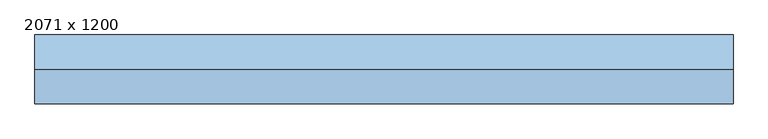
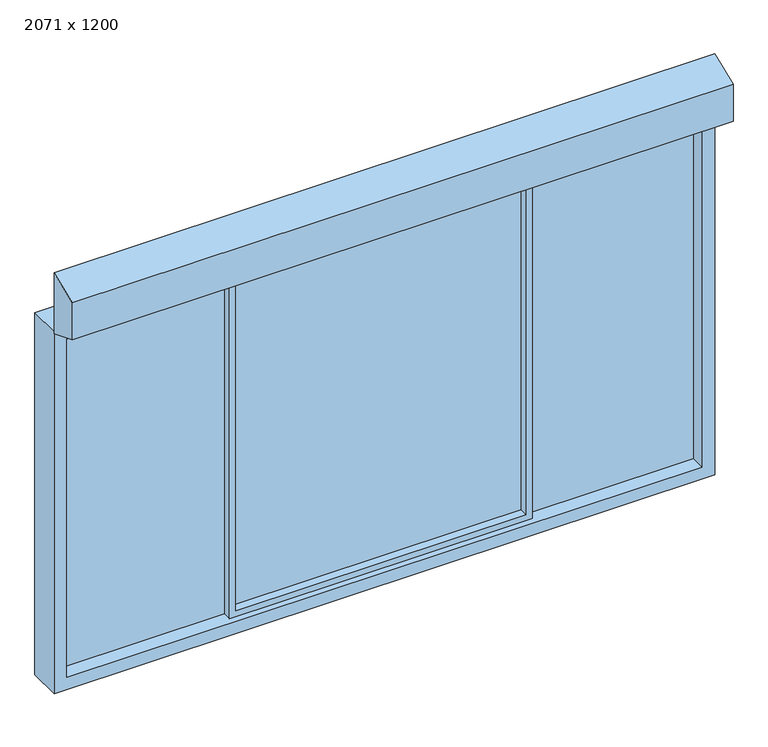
"""IFC4 building model written with IfcOpenShell, lengths in millimetres: window geometry, Window_Zeppelin-Rental-GmbH_Triple : 2071 x 1200."""

from ifc_helpers import new_model, si_unit, frame, origin, place, context, project, spatial, polyline, outline, extrude, source, transform, mapped, element, save


def window_2071_x_1200_b3dbcdca(model_context):
    return source(origin(), model_context, "Body", "SweptSolid", [
        extrude(outline(polyline([(454.5, 5.0), (454.5, -5.0), (-454.5, -5.0), (-454.5, 5.0), (454.5, 5.0)])), frame((0.0, 0.0, 1060.0), z_axis=(0.0, 0.0, 1.0), x_axis=(1.0, 0.0, 0.0)), (0.0, 0.0, 1.0), 1080.0),
        extrude(outline(polyline([(474.5, 5.0), (995.5, 5.0), (995.5, -5.0), (474.5, -5.0), (474.5, 5.0)])), frame((0.0, 0.0, 1040.0), z_axis=(0.0, 0.0, 1.0), x_axis=(1.0, 0.0, 0.0)), (0.0, 0.0, 1.0), 1120.0),
        extrude(outline(polyline([(2160.0, 474.5), (2160.0, -474.5), (1040.0, -474.5), (1040.0, 474.5), (2160.0, 474.5)]), holes=[polyline([(1060.0, 454.5), (1060.0, -454.5), (2140.0, -454.5), (2140.0, 454.5), (1060.0, 454.5)])]), frame((0.0, -31.8306087, 0.0), z_axis=(0.0, 1.0, 0.0), x_axis=(0.0, 0.0, 1.0)), (0.0, 0.0, 1.0), 64.9965317),
        extrude(outline(polyline([(-151.3073429, 2355.8213991), (-51.3323429, 2395.1897929), (-51.3323429, 2193.529924), (-151.3073429, 2232.8983177), (-151.3073429, 2355.8213991)])), frame((-1035.5, 0.0, 0.0), z_axis=(1.0, 0.0, 0.0), x_axis=(0.0, 1.0, 0.0)), (0.0, 0.0, 1.0), 2071.0),
        extrude(outline(polyline([(-474.5, 5.0), (-474.5, -5.0), (-995.5, -5.0), (-995.5, 5.0), (-474.5, 5.0)])), frame((0.0, 0.0, 1040.0), z_axis=(0.0, 0.0, 1.0), x_axis=(1.0, 0.0, 0.0)), (0.0, 0.0, 1.0), 1120.0),
        extrude(outline(polyline([(2200.0, 1035.5), (2200.0, -1035.5), (1000.0, -1035.5), (1000.0, 1035.5), (2200.0, 1035.5)]), holes=[polyline([(1040.0, 995.5), (1040.0, -995.5), (2160.0, -995.5), (2160.0, 995.5), (1040.0, 995.5)])]), frame((0.0, -51.3323429, 0.0), z_axis=(0.0, 1.0, 0.0), x_axis=(0.0, 0.0, 1.0)), (0.0, 0.0, 1.0), 104.0),
    ])


if __name__ == "__main__":
    model = new_model("IFC4")
    model_context = context("Model", 3, world=origin())
    ifc_project = project(units=[si_unit("LENGTHUNIT", "METRE", prefix="MILLI")], contexts=[model_context])
    site = spatial("IfcSite", under=ifc_project)
    building = spatial("IfcBuilding", under=site)
    placement = place(None, origin())
    window_2071_x_1200_shape = window_2071_x_1200_b3dbcdca(model_context)
    element("IfcWindow", 1, ObjectType="Window_Zeppelin-Rental-GmbH_Triple : 2071 x 1200", at=placement, inside=building, context=model_context, shape_type="MappedRepresentation", body=[
        mapped(window_2071_x_1200_shape, transform((0.0, 0.0, 0.0), x_axis=(1.0, 0.0, 0.0), y_axis=(0.0, 1.0, 0.0), z_axis=(0.0, 0.0, 1.0))),
    ])
    save(model, "model.ifc")
